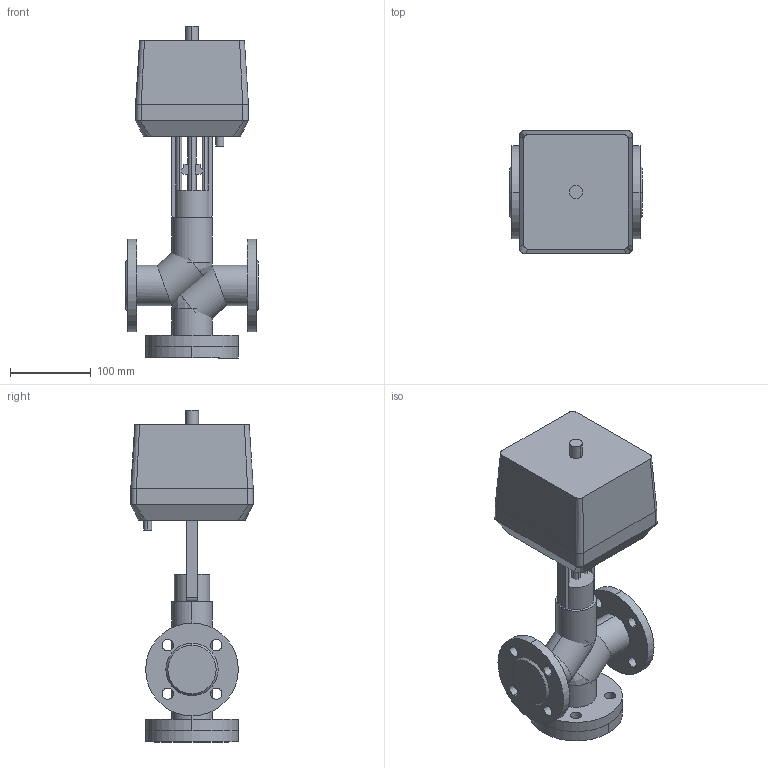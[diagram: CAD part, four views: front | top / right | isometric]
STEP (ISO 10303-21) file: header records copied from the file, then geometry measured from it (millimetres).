
FILE_DESCRIPTION(/* description */ (''),/* implementation_level */ '2;1');
FILE_NAME(/* name */ 'ТРК DN25 PN 1.6 МПа VTM-i 1000H',/* time_stamp */ '2026-07-14T23:22:27+03:00',/* author */ (''),/* organization */ (''),/* preprocessor_version */ 'ST-DEVELOPER v20',/* originating_system */ '',/* authorisation */ '');
FILE_SCHEMA (('AP242_MANAGED_MODEL_BASED_3D_ENGINEERING_MIM_LF { 1 0 10303 442 1 1 4 }'));
Length unit declared in the file: millimetre
Products named in the file (14): TopLevelAssembly; Выдавливание; Модификатор; Модификатор_1; Выдавливание_
1; Выдавливание_
2; Вращение; Выдавливание_
3; Выдавливание_
4; 1600; Переход; Объемная геометрия 
присоединена; Полый Выдавливание; Объемная геометрия 
присоединена_1
Assembly tree (13 placements, depth 2):
  TopLevelAssembly
    Выдавливание
    Модификатор
    Модификатор_1
    Выдавливание_
1
    Выдавливание_
2
    Вращение
    Выдавливание_
3
    Выдавливание_
4
    1600
    Переход
    Объемная геометрия 
присоединена
    Полый Выдавливание
    Объемная геометрия 
присоединена_1
Bounding box: 165 x 152 x 412 mm (x, y, z)
Volume: 3569520.7 mm3; surface area: 398134.5 mm2
Topology: 21 solids, 21 shells, 166 faces, 372 edges, 244 vertices
Faces by surface type: plane 78, cylinder 72, bspline 12, cone 4
Entity records: 5367 total; most frequent: CARTESIAN_POINT 1081, DIRECTION 906, ORIENTED_EDGE 728, EDGE_CURVE 364, AXIS2_PLACEMENT_3D 361, VERTEX_POINT 244, EDGE_LOOP 200, LINE 184
